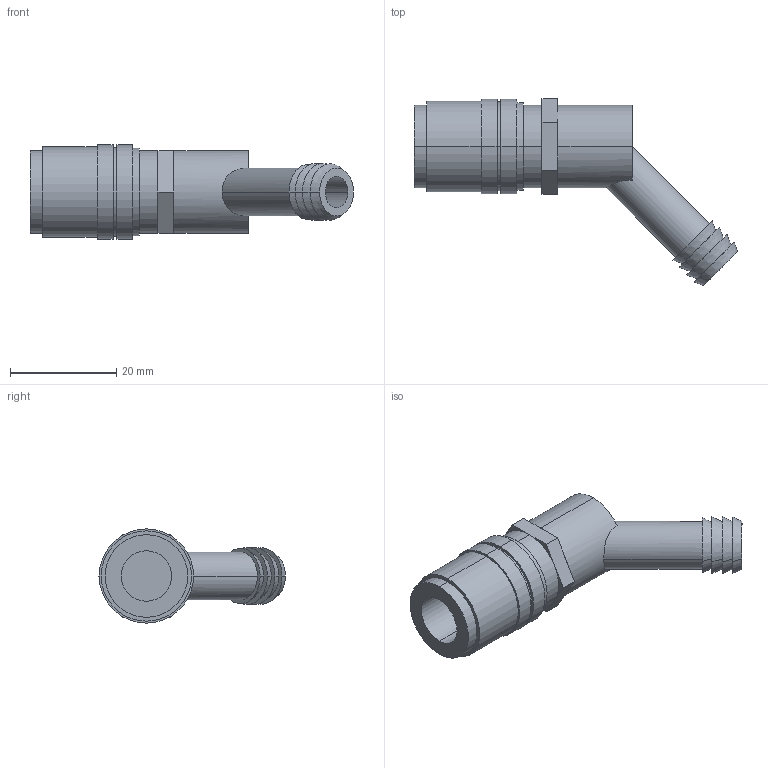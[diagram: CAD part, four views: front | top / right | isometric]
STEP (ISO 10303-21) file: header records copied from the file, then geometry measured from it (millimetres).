
FILE_DESCRIPTION (( 'STEP AP214' ), '1' );
FILE_NAME ('BR802-09-45.STEP', '2020-06-23T09:24:52', ( '' ), ( '' ), 'SwSTEP 2.0', 'SolidWorks 2018', '' );
FILE_SCHEMA (( 'AUTOMOTIVE_DESIGN' ));
Length unit declared in the file: millimetre
Products named in the file (1): BR802-09-45
Bounding box: 60.8 x 35.16 x 17.76 mm (x, y, z)
Volume: 7692 mm3; surface area: 4841.1 mm2
Topology: 1 solids, 1 shells, 54 faces, 114 edges, 76 vertices
Faces by surface type: cylinder 23, plane 23, cone 8
Entity records: 1564 total; most frequent: CARTESIAN_POINT 319, DIRECTION 274, ORIENTED_EDGE 228, EDGE_CURVE 114, AXIS2_PLACEMENT_3D 113, VERTEX_POINT 76, EDGE_LOOP 68, CIRCLE 58
